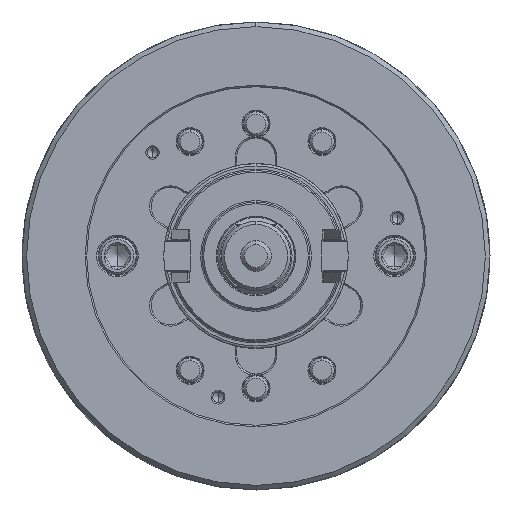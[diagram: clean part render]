
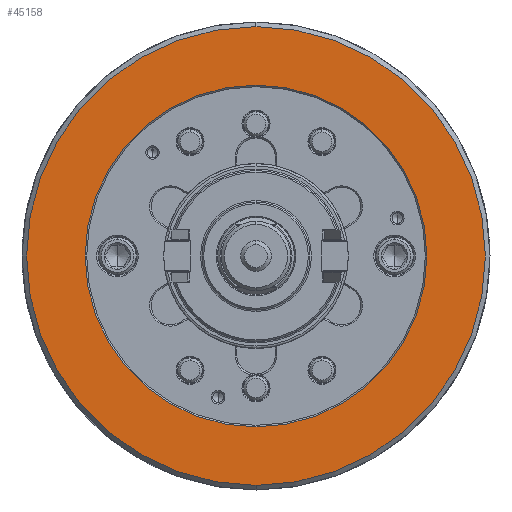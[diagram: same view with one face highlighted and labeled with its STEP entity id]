
A CAD part, left-side view. The second image highlights one B-rep face of the part: STEP entity #45158.
In plain terms, the highlighted planar face has unit normal (-1, 0, 0).
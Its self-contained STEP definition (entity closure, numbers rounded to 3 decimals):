
#2927 = EDGE_CURVE ( 'NONE', #16676, #88807, #13728, .T. ) ;
#10376 = CARTESIAN_POINT ( 'NONE',  ( -106., 0., 0. ) ) ;
#11050 = EDGE_CURVE ( 'NONE', #103195, #56884, #34087, .T. ) ;
#13728 = CIRCLE ( 'NONE', #108766, 149. ) ;
#16676 = VERTEX_POINT ( 'NONE', #25077 ) ;
#17444 = ORIENTED_EDGE ( 'NONE', *, *, #78063, .T. ) ;
#17667 = DIRECTION ( 'NONE',  ( 1., 0., 0. ) ) ;
#25077 = CARTESIAN_POINT ( 'NONE',  ( -106., 0., 149. ) ) ;
#26257 = FACE_BOUND ( 'NONE', #77192, .T. ) ;
#29502 = AXIS2_PLACEMENT_3D ( 'NONE', #96041, #17667, #54044 ) ;
#30216 = CARTESIAN_POINT ( 'NONE',  ( -106., 0., 0. ) ) ;
#30406 = CARTESIAN_POINT ( 'NONE',  ( -106., 0., -149. ) ) ;
#34087 = CIRCLE ( 'NONE', #35869, 111. ) ;
#34835 = FACE_OUTER_BOUND ( 'NONE', #113111, .T. ) ;
#35869 = AXIS2_PLACEMENT_3D ( 'NONE', #84353, #40851, #83204 ) ;
#36672 = DIRECTION ( 'NONE',  ( 0., 0., -1. ) ) ;
#40851 = DIRECTION ( 'NONE',  ( 1., 0., 0. ) ) ;
#45158 = ADVANCED_FACE ( 'NONE', ( #34835, #26257 ), #61139, .F. ) ;
#51591 = CARTESIAN_POINT ( 'NONE',  ( -106., 0., 111. ) ) ;
#54044 = DIRECTION ( 'NONE',  ( 0., 0., -1. ) ) ;
#56510 = DIRECTION ( 'NONE',  ( 0., 0., -1. ) ) ;
#56884 = VERTEX_POINT ( 'NONE', #70028 ) ;
#58236 = DIRECTION ( 'NONE',  ( 0., 0., -1. ) ) ;
#58895 = ORIENTED_EDGE ( 'NONE', *, *, #11050, .T. ) ;
#61139 = PLANE ( 'NONE',  #29502 ) ;
#65088 = CARTESIAN_POINT ( 'NONE',  ( -106., 0., 0. ) ) ;
#70028 = CARTESIAN_POINT ( 'NONE',  ( -106., 0., -111. ) ) ;
#72438 = EDGE_CURVE ( 'NONE', #88807, #16676, #72669, .T. ) ;
#72669 = CIRCLE ( 'NONE', #83637, 149. ) ;
#73569 = ORIENTED_EDGE ( 'NONE', *, *, #2927, .F. ) ;
#77192 = EDGE_LOOP ( 'NONE', ( #58895, #17444 ) ) ;
#78063 = EDGE_CURVE ( 'NONE', #56884, #103195, #84200, .T. ) ;
#83204 = DIRECTION ( 'NONE',  ( 0., 0., -1. ) ) ;
#83637 = AXIS2_PLACEMENT_3D ( 'NONE', #65088, #99996, #58236 ) ;
#84200 = CIRCLE ( 'NONE', #111569, 111. ) ;
#84353 = CARTESIAN_POINT ( 'NONE',  ( -106., 0., 0. ) ) ;
#88807 = VERTEX_POINT ( 'NONE', #30406 ) ;
#96041 = CARTESIAN_POINT ( 'NONE',  ( -106., -149., 0. ) ) ;
#99994 = DIRECTION ( 'NONE',  ( 1., 0., 0. ) ) ;
#99996 = DIRECTION ( 'NONE',  ( 1., 0., 0. ) ) ;
#103195 = VERTEX_POINT ( 'NONE', #51591 ) ;
#105528 = ORIENTED_EDGE ( 'NONE', *, *, #72438, .F. ) ;
#108766 = AXIS2_PLACEMENT_3D ( 'NONE', #30216, #99994, #56510 ) ;
#111569 = AXIS2_PLACEMENT_3D ( 'NONE', #10376, #112287, #36672 ) ;
#112287 = DIRECTION ( 'NONE',  ( 1., 0., 0. ) ) ;
#113111 = EDGE_LOOP ( 'NONE', ( #105528, #73569 ) ) ;
